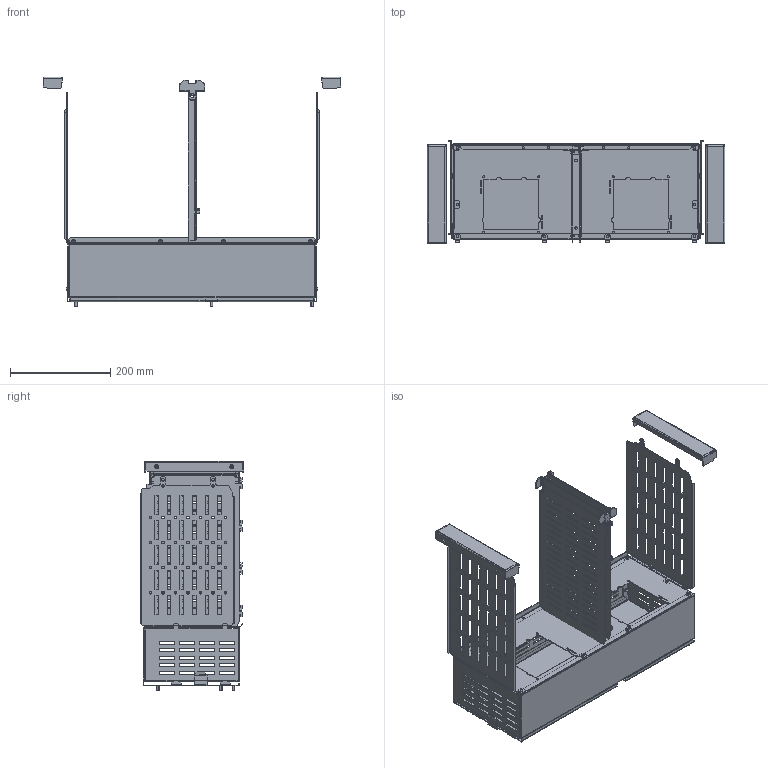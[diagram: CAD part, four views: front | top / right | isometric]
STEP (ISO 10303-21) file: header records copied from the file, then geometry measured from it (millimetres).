
FILE_DESCRIPTION(('CAx-IF Rec.Pracs.---Model Styling and Organization---1.2---2011-12-15','CAx-IF Rec.Pracs.---Geometric and Assembly Validation Properties---4.1---2014-06-16','CAx-IF Rec.Pracs.---PMI Polyline Presentation---2.0---2013-05-24'),'2;1');
FILE_NAME('R5M2W4M2A.stp','2021-05-05T12:21:17+03:00',(''),(''),'STEP Interface 4.4 by CT CoreTechnologie','3D_Evolution4.4 by CT CoreTechnologie','');
FILE_SCHEMA(('AUTOMOTIVE_DESIGN { 1 0 10303 214 1 1 1 1 }'));
Length unit declared in the file: millimetre
Products named in the file (14): R5M2W4M2A; M5x8-DIN7500C_stright; RB.1421.00.00.0_-02; ÒÏÀ.09.0004.00.00.2_¡¥§ § æ¥¯®¢; RB.0908.00.00.0_-02; RB.1426.00.00.0_-00; RB.1246.00.00.0_-05; RB.1599.00.00.0_-02; RB.1285.00.00.0_-05; RB.1285.00.00.0_-04; RB.1622.00.00.0_-00; RB.1252.00.00.0_-02; RB.1251.00.00.0_-02 (for assembly); RB.1282.00.00.0_-02
Assembly tree (39 placements, depth 2):
  R5M2W4M2A
    M5x8-DIN7500C_stright  x22
    RB.1421.00.00.0_-02
    ÒÏÀ.09.0004.00.00.2_¡¥§ § æ¥¯®¢  x2
    RB.0908.00.00.0_-02  x2
    RB.1426.00.00.0_-00  x4
    RB.1246.00.00.0_-05
    RB.1599.00.00.0_-02
    RB.1285.00.00.0_-05
    RB.1285.00.00.0_-04
    RB.1622.00.00.0_-00
    RB.1252.00.00.0_-02
    RB.1251.00.00.0_-02 (for assembly)
    RB.1282.00.00.0_-02
Bounding box: 594 x 206 x 458.6 mm (x, y, z)
Surface area: 1324697.8 mm2 (no closed solid volume)
Topology: 0 solids, 41 shells, 2609 faces, 7343 edges, 4790 vertices
Faces by surface type: plane 1949, cylinder 482, bspline 178
Entity records: 77665 total; most frequent: CARTESIAN_POINT 15313, ORIENTED_EDGE 13042, DIRECTION 11755, EDGE_CURVE 6523, VECTOR 5599, LINE 5599, VERTEX_POINT 4280, AXIS2_PLACEMENT_3D 3078
